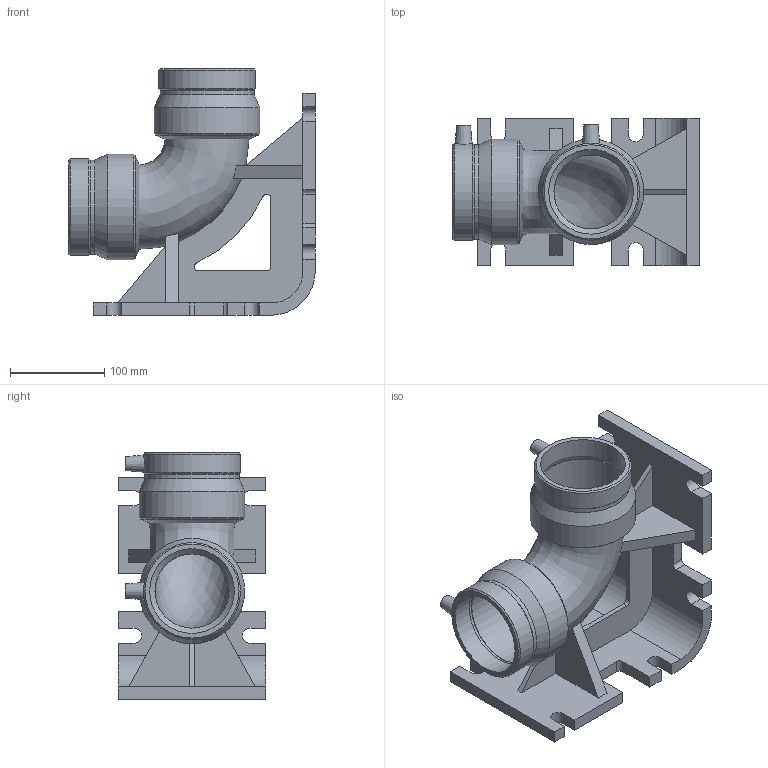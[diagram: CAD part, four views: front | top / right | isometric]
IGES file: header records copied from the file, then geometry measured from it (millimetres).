
Global section: file name: 491504090.ipt; native system: Autodesk Inventor 2015; preprocessor: unknown; author: KIM; date: 20171106.093909; units: millimetre
Bounding box: 262 x 156.8 x 262 mm (x, y, z)
Volume: 1583512.7 mm3; surface area: 360330.3 mm2
Topology: 1 solids, 1 shells, 135 faces, 370 edges, 244 vertices
Faces by surface type: plane 80, revolution 33, cone 12, cylinder 10
Full cylindrical faces by diameter (mm): 4.8 x2, 99.949 x2, 103.04 x2, 112 x2
